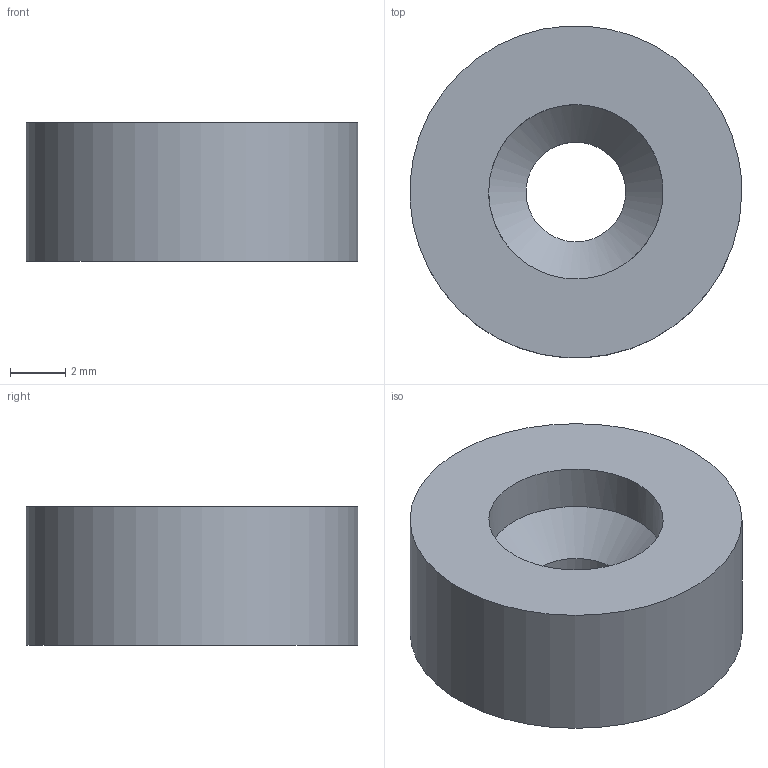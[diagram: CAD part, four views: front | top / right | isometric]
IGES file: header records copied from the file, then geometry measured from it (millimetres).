
Global section: file name: 80.05; native system: Autodesk Inventor 2014; preprocessor: unknown; author: Stefano; date: 20150518.122210; units: millimetre
Bounding box: 11.99 x 11.98 x 5 mm (x, y, z)
Volume: 467.8 mm3; surface area: 458.7 mm2
Topology: 1 solids, 1 shells, 6 faces, 14 edges, 10 vertices
Faces by surface type: bspline 6
